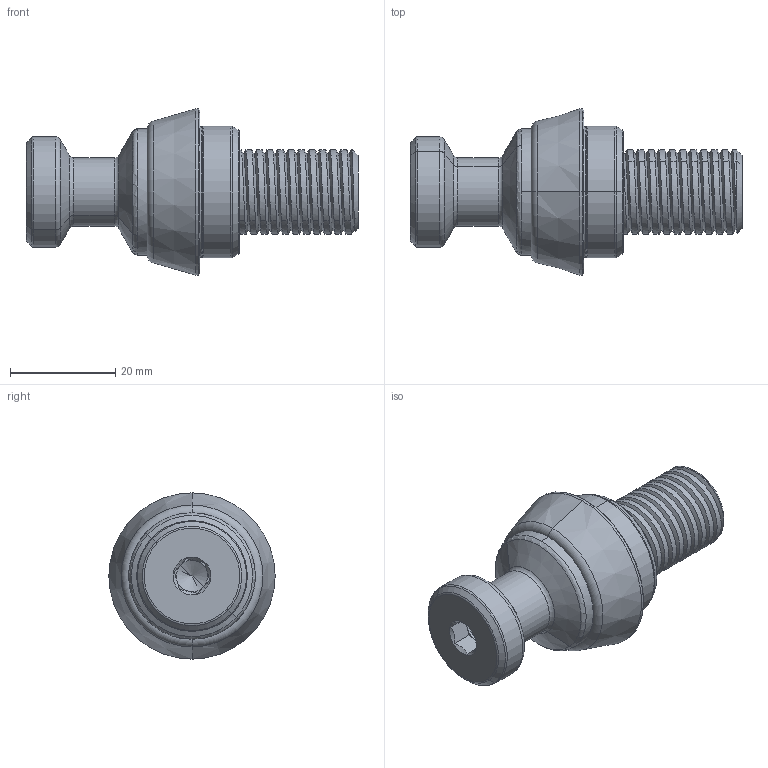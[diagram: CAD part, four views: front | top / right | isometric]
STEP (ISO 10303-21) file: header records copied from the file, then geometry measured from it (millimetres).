
FILE_DESCRIPTION (( 'STEP AP203' ), '1' );
FILE_NAME ('CP80-80T隅弇嶺隊.STEP', '2021-11-08T08:39:53', ( 'set' ), ( '' ), 'SwSTEP 2.0', 'SolidWorks 2018', '' );
FILE_SCHEMA (( 'CONFIG_CONTROL_DESIGN' ));
Length unit declared in the file: millimetre
Products named in the file (1): CP80-80T隅弇嶺隊
Bounding box: 63 x 31.54 x 31.54 mm (x, y, z)
Volume: 20232 mm3; surface area: 5825.5 mm2
Topology: 1 solids, 1 shells, 258 faces, 664 edges, 424 vertices
Faces by surface type: plane 100, bspline 78, cylinder 36, torus 22, cone 22
Entity records: 13785 total; most frequent: CARTESIAN_POINT 8074, ORIENTED_EDGE 1324, DIRECTION 906, EDGE_CURVE 662, VERTEX_POINT 424, VECTOR 358, LINE 358, EDGE_LOOP 276
